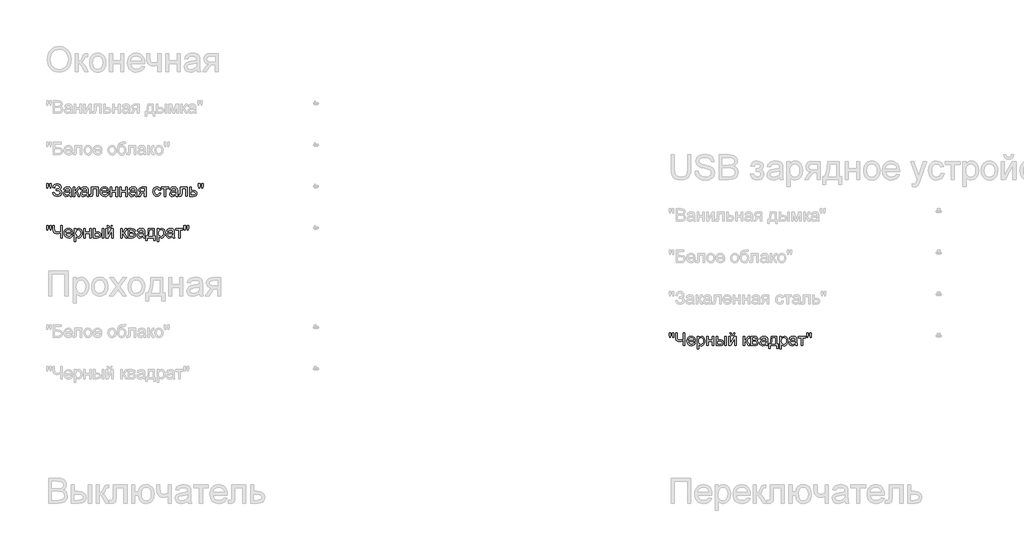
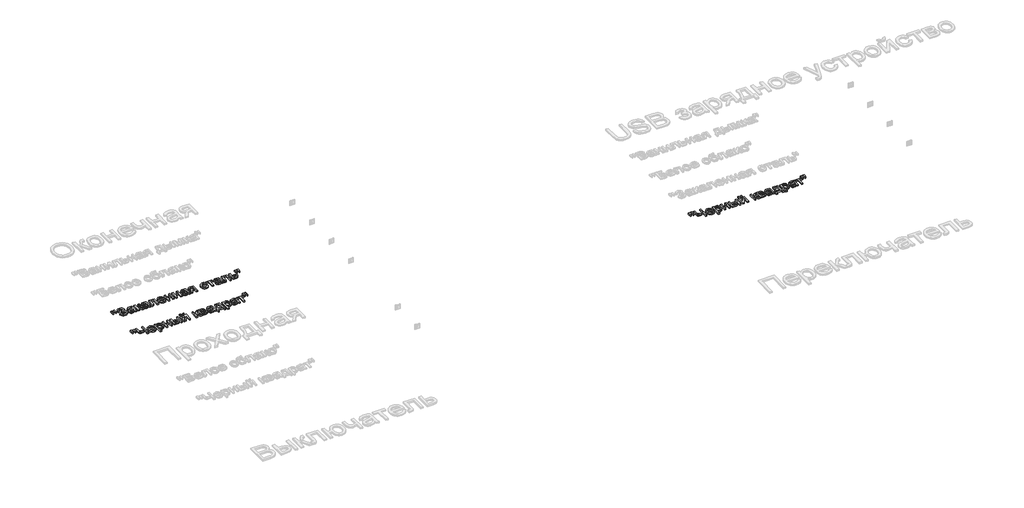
# One storey, part 139 of 168: 3 proxies.
"""IFC4 building model written with IfcOpenShell, lengths in millimetres."""

from ifc_helpers import new_model, si_unit, origin, origin_with_axes, place, context, project, spatial, polyline, outline, extrude, element, save

model = new_model("IFC4")

# Units and contexts
model_context = context("Model", 3, world=origin())
ifc_project = project(units=[si_unit("LENGTHUNIT", "METRE", prefix="MILLI")], contexts=[model_context])

# Site, building, storey
site = spatial("IfcSite", under=ifc_project)
building = spatial("IfcBuilding", under=site)
storey = spatial("IfcBuildingStorey", under=building, Name="Этаж 01", Elevation=0.0)

# Proxies
placement = place(None, origin())
element("IfcBuildingElementProxy", 1, Name="150", ObjectType="150", at=placement, inside=storey, context=model_context, shape_type="SweptSolid", body=[
    extrude(outline(polyline([(63580.1485789, -16051.873446), (63575.550054, -16022.7739802), (63575.550054, -15997.7212163), (63594.3856121, -15997.7212163), (63594.3856121, -16022.7739802), (63590.2653338, -16051.873446), (63580.1485789, -16051.873446)])), origin_with_axes(), (0.0, 0.0, 1.0), 20.0),
    extrude(outline(polyline([(63617.7093306, -16051.873446), (63613.2211703, -16022.7739802), (63613.2211703, -15997.7212163), (63632.0567284, -15997.7212163), (63632.0567284, -16022.7739802), (63627.6421445, -16051.873446), (63617.7093306, -16051.873446)])), origin_with_axes(), (0.0, 0.0, 1.0), 20.0),
    extrude(outline(polyline([(63650.8922866, -16106.0256757), (63669.7278447, -16101.3167862), (63681.2977335, -16121.7158428), (63692.2284273, -16129.3723868), (63706.2217387, -16131.9245682), (63720.398991, -16130.0069833), (63731.2193202, -16124.2542286), (63738.0757209, -16115.7883442), (63740.3611878, -16105.7313701), (63737.8641888, -16095.1961495), (63730.3731916, -16087.0613589), (63718.5779752, -16081.8604272), (63703.1683181, -16080.1267833), (63693.2722924, -16080.1267833), (63693.2722924, -16061.2912251), (63714.591054, -16059.7645148), (63727.6324708, -16051.9654165), (63733.2978535, -16037.7099892), (63731.4124583, -16028.8394346), (63725.7562726, -16021.2104817), (63716.8811195, -16015.9543677), (63705.3388219, -16014.2023297), (63686.1169876, -16019.591801), (63675.117316, -16033.8840165), (63672.0822895, -16047.1645565), (63653.2467313, -16042.455667), (63659.0983543, -16021.8542752), (63669.7002536, -16007.1389954), (63685.0524291, -15998.3098275), (63705.1548809, -15995.3667716), (63724.5468605, -15998.4247907), (63739.4598769, -16007.5988479), (63748.965028, -16020.8655924), (63752.1334117, -16036.201673), (63747.2037929, -16054.8440931), (63732.4149367, -16068.7592296), (63742.8903765, -16073.5830823), (63751.5080123, -16081.7270699), (63757.2745625, -16092.4922168), (63759.196746, -16105.1795471), (63755.508729, -16123.0172254), (63744.444678, -16137.6819214), (63727.2921799, -16147.4905751), (63705.3388219, -16150.7601263), (63686.2365493, -16147.9642232), (63670.7947025, -16139.5765137), (63659.0132816, -16125.5969979), (63650.8922866, -16106.0256757)])), origin_with_axes(), (0.0, 0.0, 1.0), 20.0),
    extrude(outline(polyline([(63853.3745367, -16134.279013), (63835.1091957, -16147.0445182), (63814.9308682, -16150.7601263), (63799.1901174, -16148.5252432), (63787.5788419, -16141.8205939), (63780.4189386, -16131.6394596), (63778.0323041, -16118.975122), (63781.6375477, -16104.0759012), (63791.110509, -16093.2601705), (63804.2990786, -16087.079753), (63820.596251, -16084.2470616), (63853.2641721, -16077.7723385), (63853.3745367, -16073.5784838), (63852.0777527, -16065.1723802), (63848.1874006, -16059.6725443), (63839.4869914, -16055.5890542), (63827.3652797, -16054.2278908), (63808.3089923, -16057.8515285), (63799.222307, -16070.7090042), (63780.3867489, -16068.3545594), (63788.5353351, -16049.9604597), (63804.9428721, -16039.1815172), (63829.7933008, -16035.3923327), (63852.6203786, -16038.7400588), (63865.5146426, -16047.1461624), (63871.2903899, -16059.9300617), (63872.2100949, -16076.4111751), (63872.2100949, -16099.8452582), (63873.1665881, -16132.5683617), (63876.9189844, -16148.4056816), (63858.0834263, -16148.4056816), (63853.3745367, -16134.279013)]), holes=[polyline([(63853.3745367, -16096.6078966), (63822.9874839, -16102.383644), (63806.782282, -16105.4370645), (63799.4430362, -16110.4034715), (63796.8678623, -16117.6507468), (63802.4780627, -16127.841078), (63818.940782, -16131.9245682), (63837.9970693, -16127.4180137), (63850.284328, -16116.5103126), (63853.2641721, -16101.9421856), (63853.3745367, -16096.6078966)])]), origin_with_axes(), (0.0, 0.0, 1.0), 20.0),
    extrude(outline(polyline([(63898.1089873, -16037.7467774), (63916.9445455, -16037.7467774), (63916.9445455, -16084.8356728), (63929.5628979, -16081.4511584), (63939.900382, -16061.7326835), (63948.4904266, -16044.7181412), (63956.0687957, -16039.1815172), (63969.8459764, -16037.7467774), (63973.4512199, -16037.7467774), (63973.4512199, -16056.6927002), (63968.3744484, -16056.5823356), (63959.1773985, -16058.5688983), (63952.7026754, -16070.9665216), (63945.1059122, -16084.3758203), (63934.4557285, -16090.9425139), (63946.3383169, -16098.2725627), (63958.0001762, -16113.7144094), (63978.1601095, -16148.4056816), (63956.7493774, -16148.4056816), (63936.9941142, -16114.4501734), (63927.0613004, -16100.0843815), (63916.9445455, -16096.6078966), (63916.9445455, -16148.4056816), (63898.1089873, -16148.4056816), (63898.1089873, -16037.7467774)])), origin_with_axes(), (0.0, 0.0, 1.0), 20.0),
    extrude(outline(polyline([(64060.5656764, -16134.279013), (64042.3003353, -16147.0445182), (64022.1220079, -16150.7601263), (64006.381257, -16148.5252432), (63994.7699816, -16141.8205939), (63987.6100782, -16131.6394596), (63985.2234438, -16118.975122), (63988.8286873, -16104.0759012), (63998.3016487, -16093.2601705), (64011.4902183, -16087.079753), (64027.7873906, -16084.2470616), (64060.4553118, -16077.7723385), (64060.5656764, -16073.5784838), (64059.2688924, -16065.1723802), (64055.3785403, -16059.6725443), (64046.6781311, -16055.5890542), (64034.5564193, -16054.2278908), (64015.500132, -16057.8515285), (64006.4134467, -16070.7090042), (63987.5778886, -16068.3545594), (63995.7264748, -16049.9604597), (64012.1340117, -16039.1815172), (64036.9844405, -16035.3923327), (64059.8115183, -16038.7400588), (64072.7057822, -16047.1461624), (64078.4815296, -16059.9300617), (64079.4012346, -16076.4111751), (64079.4012346, -16099.8452582), (64080.3577277, -16132.5683617), (64084.1101241, -16148.4056816), (64065.2745659, -16148.4056816), (64060.5656764, -16134.279013)]), holes=[polyline([(64060.5656764, -16096.6078966), (64030.1786236, -16102.383644), (64013.9734217, -16105.4370645), (64006.6341759, -16110.4034715), (64004.0590019, -16117.6507468), (64009.6692024, -16127.841078), (64026.1319217, -16131.9245682), (64045.188209, -16127.4180137), (64057.4754676, -16116.5103126), (64060.4553118, -16101.9421856), (64060.5656764, -16096.6078966)])]), origin_with_axes(), (0.0, 0.0, 1.0), 20.0),
    extrude(outline(polyline([(64114.7179061, -16037.7467774), (64199.4779178, -16037.7467774), (64199.4779178, -16148.295317), (64180.6423596, -16148.295317), (64180.6423596, -16056.5823356), (64133.5534643, -16056.5823356), (64133.5534643, -16109.3734019), (64132.2842714, -16133.72719), (64125.3129076, -16144.0094917), (64108.8317942, -16148.4056816), (64093.5279032, -16147.4491884), (64093.5279032, -16129.5701234), (64101.9524009, -16129.5701234), (64110.4688691, -16128.4112951), (64113.8717775, -16124.7324752), (64114.7179061, -16108.3065441), (64114.7179061, -16037.7467774)])), origin_with_axes(), (0.0, 0.0, 1.0), 20.0),
    extrude(outline(polyline([(64305.2072032, -16115.4434548), (64323.6748794, -16117.7978996), (64317.0208138, -16131.713036), (64306.4028197, -16142.1148995), (64292.0600204, -16148.5988196), (64274.2315392, -16150.7601263), (64252.1310283, -16147.0307226), (64235.1256831, -16135.8425114), (64224.2823613, -16117.9220597), (64220.6679207, -16093.9959345), (64224.3191495, -16069.2650674), (64235.2728359, -16050.7698), (64252.0482549, -16039.2366995), (64273.1646814, -16035.3923327), (64293.6235189, -16039.2275025), (64309.971275, -16050.7330118), (64320.6904367, -16069.191491), (64324.2634906, -16093.8855699), (64324.153126, -16098.9623414), (64239.5034789, -16098.9623414), (64242.763833, -16113.0614189), (64250.3376036, -16123.4264941), (64261.2682974, -16129.8000497), (64274.5994212, -16131.9245682), (64293.0670974, -16127.9882308), (64305.2072032, -16115.4434548)]), holes=[polyline([(64239.5034789, -16080.1267833), (64305.4279324, -16080.1267833), (64302.8803496, -16070.1755753), (64297.8863515, -16063.0570587), (64286.9050739, -16056.4351828), (64273.091105, -16054.2278908), (64260.3945777, -16055.9891259), (64249.8961452, -16061.272831), (64242.5982861, -16069.5087892), (64239.5034789, -16080.1267833)])]), origin_with_axes(), (0.0, 0.0, 1.0), 20.0),
    extrude(outline(polyline([(64343.0990487, -16037.7467774), (64361.9346069, -16037.7467774), (64361.9346069, -16080.1267833), (64411.377947, -16080.1267833), (64411.377947, -16037.7467774), (64430.2135052, -16037.7467774), (64430.2135052, -16148.4056816), (64411.377947, -16148.4056816), (64411.377947, -16098.9623414), (64361.9346069, -16098.9623414), (64361.9346069, -16148.4056816), (64343.0990487, -16148.4056816), (64343.0990487, -16037.7467774)])), origin_with_axes(), (0.0, 0.0, 1.0), 20.0),
    extrude(outline(polyline([(64458.4668424, -16037.7467774), (64477.3024005, -16037.7467774), (64477.3024005, -16080.1267833), (64526.7457407, -16080.1267833), (64526.7457407, -16037.7467774), (64545.5812988, -16037.7467774), (64545.5812988, -16148.4056816), (64526.7457407, -16148.4056816), (64526.7457407, -16098.9623414), (64477.3024005, -16098.9623414), (64477.3024005, -16148.4056816), (64458.4668424, -16148.4056816), (64458.4668424, -16037.7467774)])), origin_with_axes(), (0.0, 0.0, 1.0), 20.0),
    extrude(outline(polyline([(64644.4679792, -16134.279013), (64626.2026381, -16147.0445182), (64606.0243107, -16150.7601263), (64590.2835598, -16148.5252432), (64578.6722843, -16141.8205939), (64571.512381, -16131.6394596), (64569.1257465, -16118.975122), (64572.7309901, -16104.0759012), (64582.2039515, -16093.2601705), (64595.392521, -16087.079753), (64611.6896934, -16084.2470616), (64644.3576146, -16077.7723385), (64644.4679792, -16073.5784838), (64643.1711951, -16065.1723802), (64639.280843, -16059.6725443), (64630.5804338, -16055.5890542), (64618.4587221, -16054.2278908), (64599.4024347, -16057.8515285), (64590.3157495, -16070.7090042), (64571.4801913, -16068.3545594), (64579.6287775, -16049.9604597), (64596.0363145, -16039.1815172), (64620.8867433, -16035.3923327), (64643.7138211, -16038.7400588), (64656.608085, -16047.1461624), (64662.3838323, -16059.9300617), (64663.3035373, -16076.4111751), (64663.3035373, -16099.8452582), (64664.2600305, -16132.5683617), (64668.0124268, -16148.4056816), (64649.1768687, -16148.4056816), (64644.4679792, -16134.279013)]), holes=[polyline([(64644.4679792, -16096.6078966), (64614.0809264, -16102.383644), (64597.8757245, -16105.4370645), (64590.5364787, -16110.4034715), (64587.9613047, -16117.6507468), (64593.5715051, -16127.841078), (64610.0342244, -16131.9245682), (64629.0905118, -16127.4180137), (64641.3777704, -16116.5103126), (64644.3576146, -16101.9421856), (64644.4679792, -16096.6078966)])]), origin_with_axes(), (0.0, 0.0, 1.0), 20.0),
    extrude(outline(polyline([(64773.9624415, -16037.7467774), (64773.9624415, -16148.4056816), (64755.1268833, -16148.4056816), (64755.1268833, -16106.0256757), (64744.8629756, -16106.0256757), (64730.8834598, -16108.4169087), (64717.7500726, -16124.4933519), (64702.7404872, -16148.4056816), (64680.9618731, -16148.4056816), (64699.8710076, -16118.1657816), (64708.2219289, -16107.3132627), (64715.9106626, -16102.4940086), (64703.0347928, -16098.5484742), (64693.9848957, -16091.0528785), (64688.6322127, -16081.0832765), (64686.847985, -16069.7157228), (64689.2852032, -16056.8214589), (64696.5968579, -16046.6127335), (64708.5254316, -16039.9632664), (64724.8134069, -16037.7467774), (64773.9624415, -16037.7467774)]), holes=[polyline([(64755.1268833, -16056.5823356), (64730.2948486, -16056.5823356), (64717.4695626, -16057.672186), (64710.1900976, -16060.9417372), (64705.6835431, -16071.1504626), (64707.3436107, -16078.32876), (64712.3238132, -16083.3089625), (64735.8498668, -16087.1901176), (64755.1268833, -16087.1901176), (64755.1268833, -16056.5823356)])]), origin_with_axes(), (0.0, 0.0, 1.0), 20.0),
    extrude(outline(polyline([(64931.710241, -16108.3801205), (64950.5457991, -16110.7345653), (64945.2942837, -16127.4869916), (64935.4258491, -16140.1467308), (64921.8693976, -16148.1067774), (64905.5538311, -16150.7601263), (64885.518058, -16147.0583138), (64869.8508835, -16135.952876), (64859.7387272, -16117.9312568), (64856.3680084, -16093.4808997), (64857.8073467, -16076.7192763), (64862.1253616, -16062.192536), (64869.391031, -16050.4616989), (64879.6733328, -16042.087785), (64891.974387, -16037.0661957), (64905.2963137, -16035.3923327), (64921.2118085, -16037.6915951), (64933.9359271, -16044.5893825), (64943.0639991, -16055.7178129), (64948.1913544, -16070.7090042), (64929.3557962, -16073.063449), (64920.6185988, -16058.9551744), (64905.4434665, -16054.2278908), (64893.271171, -16056.5547444), (64883.6096701, -16063.5353053), (64877.3050924, -16075.5466524), (64875.2035665, -16092.9658649), (64877.2591072, -16110.6196021), (64883.4257291, -16122.672336), (64892.9124861, -16129.6115101), (64904.9284317, -16131.9245682), (64914.6819031, -16130.4806314), (64922.678738, -16126.1488209), (64928.4958721, -16118.8187721), (64931.710241, -16108.3801205)])), origin_with_axes(), (0.0, 0.0, 1.0), 20.0),
    extrude(outline(polyline([(64957.6091334, -16037.7467774), (65047.0780347, -16037.7467774), (65047.0780347, -16056.5823356), (65011.7613631, -16056.5823356), (65011.7613631, -16148.4056816), (64992.925805, -16148.4056816), (64992.925805, -16056.5823356), (64957.6091334, -16056.5823356), (64957.6091334, -16037.7467774)])), origin_with_axes(), (0.0, 0.0, 1.0), 20.0),
    extrude(outline(polyline([(65134.1924911, -16134.279013), (65115.9271501, -16147.0445182), (65095.7488226, -16150.7601263), (65080.0080718, -16148.5252432), (65068.3967963, -16141.8205939), (65061.236893, -16131.6394596), (65058.8502585, -16118.975122), (65062.4555021, -16104.0759012), (65071.9284634, -16093.2601705), (65085.117033, -16087.079753), (65101.4142054, -16084.2470616), (65134.0821265, -16077.7723385), (65134.1924911, -16073.5784838), (65132.8957071, -16065.1723802), (65129.005355, -16059.6725443), (65120.3049458, -16055.5890542), (65108.1832341, -16054.2278908), (65089.1269467, -16057.8515285), (65080.0402614, -16070.7090042), (65061.2047033, -16068.3545594), (65069.3532895, -16049.9604597), (65085.7608265, -16039.1815172), (65110.6112552, -16035.3923327), (65133.438333, -16038.7400588), (65146.332597, -16047.1461624), (65152.1083443, -16059.9300617), (65153.0280493, -16076.4111751), (65153.0280493, -16099.8452582), (65153.9845425, -16132.5683617), (65157.7369388, -16148.4056816), (65138.9013807, -16148.4056816), (65134.1924911, -16134.279013)]), holes=[polyline([(65134.1924911, -16096.6078966), (65103.8054383, -16102.383644), (65087.6002364, -16105.4370645), (65080.2609906, -16110.4034715), (65077.6858167, -16117.6507468), (65083.2960171, -16127.841078), (65099.7587364, -16131.9245682), (65118.8150237, -16127.4180137), (65131.1022824, -16116.5103126), (65134.0821265, -16101.9421856), (65134.1924911, -16096.6078966)])]), origin_with_axes(), (0.0, 0.0, 1.0), 20.0),
    extrude(outline(polyline([(65188.3447208, -16037.7467774), (65273.1047325, -16037.7467774), (65273.1047325, -16148.295317), (65254.2691744, -16148.295317), (65254.2691744, -16056.5823356), (65207.180279, -16056.5823356), (65207.180279, -16109.3734019), (65205.9110861, -16133.72719), (65198.9397223, -16144.0094917), (65182.4586089, -16148.4056816), (65167.1547179, -16147.4491884), (65167.1547179, -16129.5701234), (65175.5792156, -16129.5701234), (65184.0956838, -16128.4112951), (65187.4985922, -16124.7324752), (65188.3447208, -16108.3065441), (65188.3447208, -16037.7467774)])), origin_with_axes(), (0.0, 0.0, 1.0), 20.0),
    extrude(outline(polyline([(65301.3580697, -16037.7467774), (65320.1936279, -16037.7467774), (65320.1936279, -16077.7723385), (65341.8986656, -16077.7723385), (65360.7158297, -16080.1313818), (65374.6401632, -16087.2085117), (65383.2486019, -16098.433511), (65386.1180814, -16113.2361628), (65383.6762647, -16126.7144394), (65376.3508145, -16138.0865916), (65363.6542871, -16145.8259091), (65345.099239, -16148.4056816), (65301.3580697, -16148.4056816), (65301.3580697, -16037.7467774)]), holes=[polyline([(65320.1936279, -16129.5701234), (65337.7783873, -16129.5701234), (65360.4951005, -16125.615392), (65365.5856676, -16120.552416), (65367.2825233, -16113.272951), (65362.260934, -16101.6846682), (65354.1905228, -16097.8770895), (65340.0224674, -16096.6078966), (65320.1936279, -16096.6078966), (65320.1936279, -16129.5701234)])]), origin_with_axes(), (0.0, 0.0, 1.0), 20.0),
    extrude(outline(polyline([(65409.5521645, -16051.873446), (65404.9536396, -16022.7739802), (65404.9536396, -15997.7212163), (65423.7891977, -15997.7212163), (65423.7891977, -16022.7739802), (65419.6689194, -16051.873446), (65409.5521645, -16051.873446)])), origin_with_axes(), (0.0, 0.0, 1.0), 20.0),
    extrude(outline(polyline([(65447.1129162, -16051.873446), (65442.6247559, -16022.7739802), (65442.6247559, -15997.7212163), (65461.460314, -15997.7212163), (65461.460314, -16022.7739802), (65457.0457301, -16051.873446), (65447.1129162, -16051.873446)])), origin_with_axes(), (0.0, 0.0, 1.0), 20.0),
])
element("IfcBuildingElementProxy", 2, Name="150", ObjectType="150", at=placement, inside=storey, context=model_context, shape_type="SweptSolid", body=[
    extrude(outline(polyline([(63580.1485789, -16551.873446), (63575.550054, -16522.7739802), (63575.550054, -16497.7212163), (63594.3856121, -16497.7212163), (63594.3856121, -16522.7739802), (63590.2653338, -16551.873446), (63580.1485789, -16551.873446)])), origin_with_axes(), (0.0, 0.0, 1.0), 20.0),
    extrude(outline(polyline([(63617.7093306, -16551.873446), (63613.2211703, -16522.7739802), (63613.2211703, -16497.7212163), (63632.0567284, -16497.7212163), (63632.0567284, -16522.7739802), (63627.6421445, -16551.873446), (63617.7093306, -16551.873446)])), origin_with_axes(), (0.0, 0.0, 1.0), 20.0),
    extrude(outline(polyline([(63763.9056355, -16648.4056816), (63745.0700773, -16648.4056816), (63745.0700773, -16588.0730344), (63720.0908899, -16596.2400147), (63698.4226404, -16598.9623414), (63683.7395502, -16597.0999388), (63670.886673, -16591.512731), (63660.926268, -16583.0606422), (63654.9205944, -16572.6035965), (63650.8922866, -16542.6028198), (63650.8922866, -16497.7212163), (63669.7278447, -16497.7212163), (63669.7278447, -16540.064434), (63671.990319, -16560.4313009), (63678.7777418, -16572.3828673), (63688.7381468, -16578.1908043), (63700.5195677, -16580.1267833), (63722.2521966, -16577.7907326), (63745.0700773, -16570.7825806), (63745.0700773, -16497.7212163), (63763.9056355, -16497.7212163), (63763.9056355, -16648.4056816)])), origin_with_axes(), (0.0, 0.0, 1.0), 20.0),
    extrude(outline(polyline([(63871.9893657, -16615.4434548), (63890.4570418, -16617.7978996), (63883.8029763, -16631.713036), (63873.1849822, -16642.1148995), (63858.8421829, -16648.5988196), (63841.0137017, -16650.7601263), (63818.9131908, -16647.0307226), (63801.9078456, -16635.8425114), (63791.0645238, -16617.9220597), (63787.4500832, -16593.9959345), (63791.101312, -16569.2650674), (63802.0549984, -16550.7698), (63818.8304174, -16539.2366995), (63839.9468439, -16535.3923327), (63860.4056814, -16539.2275025), (63876.7534375, -16550.7330118), (63887.4725992, -16569.191491), (63891.045653, -16593.8855699), (63890.9352884, -16598.9623414), (63806.2856413, -16598.9623414), (63809.5459955, -16613.0614189), (63817.1197661, -16623.4264941), (63828.0504599, -16629.8000497), (63841.3815837, -16631.9245682), (63859.8492598, -16627.9882308), (63871.9893657, -16615.4434548)]), holes=[polyline([(63806.2856413, -16580.1267833), (63872.2100949, -16580.1267833), (63869.6625121, -16570.1755753), (63864.668514, -16563.0570587), (63853.6872364, -16556.4351828), (63839.8732675, -16554.2278908), (63827.1767401, -16555.9891259), (63816.6783077, -16561.272831), (63809.3804486, -16569.5087892), (63806.2856413, -16580.1267833)])]), origin_with_axes(), (0.0, 0.0, 1.0), 20.0),
    extrude(outline(polyline([(63909.8812112, -16690.7856874), (63909.8812112, -16537.7467774), (63928.7167693, -16537.7467774), (63928.7167693, -16556.2144536), (63941.739792, -16540.5978629), (63959.3245513, -16535.3923327), (63972.0624654, -16537.2133485), (63983.2000928, -16542.6763962), (63992.268384, -16551.4503817), (63998.7982894, -16563.2042115), (64004.0590019, -16592.2301009), (64002.5736784, -16608.3387338), (63998.1177077, -16622.7459124), (63990.8336442, -16634.7204713), (63980.8640422, -16643.5312451), (63969.2527667, -16648.952906), (63957.043683, -16650.7601263), (63940.6545401, -16645.9224781), (63928.7167693, -16633.6904018), (63928.7167693, -16690.7856874), (63909.8812112, -16690.7856874)]), holes=[polyline([(63928.7167693, -16593.9591463), (63930.7539159, -16610.8449299), (63936.8653555, -16622.6539419), (63945.8830629, -16629.6069116), (63956.6390128, -16631.9245682), (63967.5697066, -16629.5241382), (63976.8173402, -16622.3228481), (63983.1219179, -16610.0815747), (63985.2234438, -16592.5611947), (63983.1725017, -16575.7673816), (63977.0196753, -16563.7928227), (63968.0157635, -16556.6191238), (63957.411565, -16554.2278908), (63946.7659797, -16556.7708751), (63937.4171785, -16564.399828), (63930.8918716, -16576.8756261), (63928.7167693, -16593.9591463)])]), origin_with_axes(), (0.0, 0.0, 1.0), 20.0),
    extrude(outline(polyline([(64025.2490049, -16537.7467774), (64044.084563, -16537.7467774), (64044.084563, -16580.1267833), (64093.5279032, -16580.1267833), (64093.5279032, -16537.7467774), (64112.3634613, -16537.7467774), (64112.3634613, -16648.4056816), (64093.5279032, -16648.4056816), (64093.5279032, -16598.9623414), (64044.084563, -16598.9623414), (64044.084563, -16648.4056816), (64025.2490049, -16648.4056816), (64025.2490049, -16537.7467774)])), origin_with_axes(), (0.0, 0.0, 1.0), 20.0),
    extrude(outline(polyline([(64244.2123684, -16537.7467774), (64263.0479266, -16537.7467774), (64263.0479266, -16648.4056816), (64244.2123684, -16648.4056816), (64244.2123684, -16537.7467774)])), origin_with_axes(), (0.0, 0.0, 1.0), 20.0),
    extrude(outline(polyline([(64140.6167986, -16537.7467774), (64159.4523567, -16537.7467774), (64159.4523567, -16577.7723385), (64182.739287, -16577.7723385), (64202.8670307, -16580.1313818), (64217.780047, -16587.2085117), (64227.0092866, -16598.433511), (64230.0856998, -16613.2361628), (64227.5059273, -16626.7144394), (64219.7666098, -16638.0865916), (64206.3619096, -16645.8259091), (64186.785989, -16648.4056816), (64140.6167986, -16648.4056816), (64140.6167986, -16537.7467774)]), holes=[polyline([(64159.4523567, -16629.5701234), (64178.8029497, -16629.5701234), (64203.7821371, -16625.615392), (64209.3831405, -16620.552416), (64211.2501416, -16613.272951), (64205.7135176, -16601.6846682), (64196.8337659, -16597.8770895), (64181.267759, -16596.6078966), (64159.4523567, -16596.6078966), (64159.4523567, -16629.5701234)])]), origin_with_axes(), (0.0, 0.0, 1.0), 20.0),
    extrude(outline(polyline([(64291.3012638, -16537.7467774), (64310.1368219, -16537.7467774), (64310.1368219, -16622.1389071), (64356.4163769, -16537.7467774), (64380.770165, -16537.7467774), (64380.770165, -16648.4056816), (64361.9346069, -16648.4056816), (64361.9346069, -16564.5285867), (64315.9493575, -16648.4056816), (64291.3012638, -16648.4056816), (64291.3012638, -16537.7467774)])), origin_with_axes(), (0.0, 0.0, 1.0), 20.0),
    extrude(outline(polyline([(64352.5168278, -16497.7212163), (64366.6434964, -16497.7212163), (64363.6038714, -16509.7831473), (64357.5016288, -16518.672096), (64348.6126801, -16524.1489392), (64337.2129368, -16525.9745536), (64324.8429047, -16524.1627347), (64315.2503817, -16518.7272783), (64308.6928851, -16509.8521251), (64305.4279324, -16497.7212163), (64319.554601, -16497.7212163), (64324.8521017, -16508.3346119), (64335.5206796, -16511.847885), (64347.219327, -16508.4449765), (64352.5168278, -16497.7212163)])), origin_with_axes(), (0.0, 0.0, 1.0), 20.0),
    extrude(outline(polyline([(64467.8846215, -16537.7467774), (64486.7201796, -16537.7467774), (64486.7201796, -16584.8356728), (64499.3385321, -16581.4511584), (64509.6760161, -16561.7326835), (64518.2660607, -16544.7181412), (64525.8444298, -16539.1815172), (64539.6216105, -16537.7467774), (64543.2268541, -16537.7467774), (64543.2268541, -16556.6927002), (64538.1500825, -16556.5823356), (64528.9530327, -16558.5688983), (64522.4783096, -16570.9665216), (64514.8815464, -16584.3758203), (64504.2313626, -16590.9425139), (64516.113951, -16598.2725627), (64527.7758103, -16613.7144094), (64547.9357436, -16648.4056816), (64526.5250115, -16648.4056816), (64506.7697484, -16614.4501734), (64496.8369345, -16600.0843815), (64486.7201796, -16596.6078966), (64486.7201796, -16648.4056816), (64467.8846215, -16648.4056816), (64467.8846215, -16537.7467774)])), origin_with_axes(), (0.0, 0.0, 1.0), 20.0),
    extrude(outline(polyline([(64559.7079675, -16537.7467774), (64601.2050565, -16537.7467774), (64623.9585579, -16540.2667691), (64636.7608514, -16549.5006072), (64642.1135344, -16565.5954445), (64638.8761728, -16578.6736494), (64629.1273, -16587.999458), (64641.7824406, -16598.2081833), (64646.8224239, -16615.9584896), (64643.6310476, -16630.3150845), (64636.0434815, -16640.4226423), (64624.0321343, -16646.4099217), (64607.569415, -16648.4056816), (64559.7079675, -16648.4056816), (64559.7079675, -16537.7467774)]), holes=[polyline([(64578.5435256, -16580.1267833), (64597.1583546, -16580.1267833), (64612.5174279, -16579.1702901), (64619.9854324, -16575.3443173), (64623.2779762, -16568.4281358), (64621.8340394, -16562.8087383), (64617.5022289, -16559.1942977), (64597.7469658, -16556.5823356), (64578.5435256, -16556.5823356), (64578.5435256, -16580.1267833)]), polyline([(64578.5435256, -16629.5701234), (64601.6465149, -16629.5701234), (64622.137542, -16626.167215), (64626.377382, -16621.5273033), (64627.9868658, -16614.4133852), (64624.7678983, -16605.345094), (64616.3801888, -16600.0659874), (64599.8071049, -16598.9623414), (64578.5435256, -16598.9623414), (64578.5435256, -16629.5701234)])]), origin_with_axes(), (0.0, 0.0, 1.0), 20.0),
    extrude(outline(polyline([(64741.0002147, -16634.279013), (64722.7348736, -16647.0445182), (64702.5565462, -16650.7601263), (64686.8157953, -16648.5252432), (64675.2045198, -16641.8205939), (64668.0446165, -16631.6394596), (64665.6579821, -16618.975122), (64669.2632256, -16604.0759012), (64678.736187, -16593.2601705), (64691.9247565, -16587.079753), (64708.2219289, -16584.2470616), (64740.8898501, -16577.7723385), (64741.0002147, -16573.5784838), (64739.7034307, -16565.1723802), (64735.8130786, -16559.6725443), (64727.1126694, -16555.5890542), (64714.9909576, -16554.2278908), (64695.9346703, -16557.8515285), (64686.847985, -16570.7090042), (64668.0124268, -16568.3545594), (64676.161013, -16549.9604597), (64692.56855, -16539.1815172), (64717.4189788, -16535.3923327), (64740.2460566, -16538.7400588), (64753.1403205, -16547.1461624), (64758.9160679, -16559.9300617), (64759.8357728, -16576.4111751), (64759.8357728, -16599.8452582), (64760.792266, -16632.5683617), (64764.5446624, -16648.4056816), (64745.7091042, -16648.4056816), (64741.0002147, -16634.279013)]), holes=[polyline([(64741.0002147, -16596.6078966), (64710.6131619, -16602.383644), (64694.40796, -16605.4370645), (64687.0687142, -16610.4034715), (64684.4935402, -16617.6507468), (64690.1037407, -16627.841078), (64706.5664599, -16631.9245682), (64725.6227473, -16627.4180137), (64737.9100059, -16616.5103126), (64740.8898501, -16601.9421856), (64741.0002147, -16596.6078966)])]), origin_with_axes(), (0.0, 0.0, 1.0), 20.0),
    extrude(outline(polyline([(64802.2157787, -16537.7467774), (64872.8491218, -16537.7467774), (64872.8491218, -16629.5701234), (64886.9757904, -16629.5701234), (64886.9757904, -16679.0134636), (64868.1402322, -16679.0134636), (64868.1402322, -16648.4056816), (64790.4435548, -16648.4056816), (64790.4435548, -16679.0134636), (64771.6079967, -16679.0134636), (64771.6079967, -16629.5701234), (64783.3802205, -16629.5701234), (64791.9380754, -16614.105284), (64797.9299534, -16593.6464466), (64802.2157787, -16537.7467774)]), holes=[polyline([(64818.6968921, -16556.5823356), (64814.2823081, -16599.4957703), (64804.5702235, -16629.5701234), (64854.0135636, -16629.5701234), (64854.0135636, -16556.5823356), (64818.6968921, -16556.5823356)])]), origin_with_axes(), (0.0, 0.0, 1.0), 20.0),
    extrude(outline(polyline([(64908.1657933, -16690.7856874), (64908.1657933, -16537.7467774), (64927.0013514, -16537.7467774), (64927.0013514, -16556.2144536), (64940.0243741, -16540.5978629), (64957.6091334, -16535.3923327), (64970.3470475, -16537.2133485), (64981.4846749, -16542.6763962), (64990.5529661, -16551.4503817), (64997.0828715, -16563.2042115), (65002.3435841, -16592.2301009), (65000.8582605, -16608.3387338), (64996.4022898, -16622.7459124), (64989.1182263, -16634.7204713), (64979.1486243, -16643.5312451), (64967.5373488, -16648.952906), (64955.3282651, -16650.7601263), (64938.9391222, -16645.9224781), (64927.0013514, -16633.6904018), (64927.0013514, -16690.7856874), (64908.1657933, -16690.7856874)]), holes=[polyline([(64927.0013514, -16593.9591463), (64929.038498, -16610.8449299), (64935.1499376, -16622.6539419), (64944.167645, -16629.6069116), (64954.9235949, -16631.9245682), (64965.8542887, -16629.5241382), (64975.1019223, -16622.3228481), (64981.4065, -16610.0815747), (64983.5080259, -16592.5611947), (64981.4570838, -16575.7673816), (64975.3042574, -16563.7928227), (64966.3003456, -16556.6191238), (64955.6961471, -16554.2278908), (64945.0505618, -16556.7708751), (64935.7017606, -16564.399828), (64929.1764537, -16576.8756261), (64927.0013514, -16593.9591463)])]), origin_with_axes(), (0.0, 0.0, 1.0), 20.0),
    extrude(outline(polyline([(65094.1669301, -16634.279013), (65075.901589, -16647.0445182), (65055.7232616, -16650.7601263), (65039.9825107, -16648.5252432), (65028.3712352, -16641.8205939), (65021.2113319, -16631.6394596), (65018.8246974, -16618.975122), (65022.429941, -16604.0759012), (65031.9029024, -16593.2601705), (65045.0914719, -16587.079753), (65061.3886443, -16584.2470616), (65094.0565655, -16577.7723385), (65094.1669301, -16573.5784838), (65092.870146, -16565.1723802), (65088.9797939, -16559.6725443), (65080.2793847, -16555.5890542), (65068.157673, -16554.2278908), (65049.1013856, -16557.8515285), (65040.0147004, -16570.7090042), (65021.1791422, -16568.3545594), (65029.3277284, -16549.9604597), (65045.7352654, -16539.1815172), (65070.5856942, -16535.3923327), (65093.412772, -16538.7400588), (65106.3070359, -16547.1461624), (65112.0827832, -16559.9300617), (65113.0024882, -16576.4111751), (65113.0024882, -16599.8452582), (65113.9589814, -16632.5683617), (65117.7113777, -16648.4056816), (65098.8758196, -16648.4056816), (65094.1669301, -16634.279013)]), holes=[polyline([(65094.1669301, -16596.6078966), (65063.7798773, -16602.383644), (65047.5746754, -16605.4370645), (65040.2354296, -16610.4034715), (65037.6602556, -16617.6507468), (65043.270456, -16627.841078), (65059.7331753, -16631.9245682), (65078.7894627, -16627.4180137), (65091.0767213, -16616.5103126), (65094.0565655, -16601.9421856), (65094.1669301, -16596.6078966)])]), origin_with_axes(), (0.0, 0.0, 1.0), 20.0),
    extrude(outline(polyline([(65129.4836016, -16537.7467774), (65218.9525028, -16537.7467774), (65218.9525028, -16556.5823356), (65183.6358313, -16556.5823356), (65183.6358313, -16648.4056816), (65164.8002731, -16648.4056816), (65164.8002731, -16556.5823356), (65129.4836016, -16556.5823356), (65129.4836016, -16537.7467774)])), origin_with_axes(), (0.0, 0.0, 1.0), 20.0),
    extrude(outline(polyline([(65235.3232516, -16551.873446), (65230.7247267, -16522.7739802), (65230.7247267, -16497.7212163), (65249.5602848, -16497.7212163), (65249.5602848, -16522.7739802), (65245.4400065, -16551.873446), (65235.3232516, -16551.873446)])), origin_with_axes(), (0.0, 0.0, 1.0), 20.0),
    extrude(outline(polyline([(65272.8840033, -16551.873446), (65268.395843, -16522.7739802), (65268.395843, -16497.7212163), (65287.2314011, -16497.7212163), (65287.2314011, -16522.7739802), (65282.8168172, -16551.873446), (65272.8840033, -16551.873446)])), origin_with_axes(), (0.0, 0.0, 1.0), 20.0),
])
element("IfcBuildingElementProxy", 3, Name="150", ObjectType="150", at=placement, inside=storey, context=model_context, shape_type="SweptSolid", body=[
    extrude(outline(polyline([(71080.1485789, -17851.873446), (71075.550054, -17822.7739802), (71075.550054, -17797.7212163), (71094.3856121, -17797.7212163), (71094.3856121, -17822.7739802), (71090.2653338, -17851.873446), (71080.1485789, -17851.873446)])), origin_with_axes(), (0.0, 0.0, 1.0), 20.0),
    extrude(outline(polyline([(71117.7093306, -17851.873446), (71113.2211703, -17822.7739802), (71113.2211703, -17797.7212163), (71132.0567284, -17797.7212163), (71132.0567284, -17822.7739802), (71127.6421445, -17851.873446), (71117.7093306, -17851.873446)])), origin_with_axes(), (0.0, 0.0, 1.0), 20.0),
    extrude(outline(polyline([(71263.9056355, -17948.4056816), (71245.0700773, -17948.4056816), (71245.0700773, -17888.0730344), (71220.0908899, -17896.2400147), (71198.4226404, -17898.9623414), (71183.7395502, -17897.0999388), (71170.886673, -17891.512731), (71160.926268, -17883.0606422), (71154.9205944, -17872.6035965), (71150.8922866, -17842.6028198), (71150.8922866, -17797.7212163), (71169.7278447, -17797.7212163), (71169.7278447, -17840.064434), (71171.990319, -17860.4313009), (71178.7777418, -17872.3828673), (71188.7381468, -17878.1908043), (71200.5195677, -17880.1267833), (71222.2521966, -17877.7907326), (71245.0700773, -17870.7825806), (71245.0700773, -17797.7212163), (71263.9056355, -17797.7212163), (71263.9056355, -17948.4056816)])), origin_with_axes(), (0.0, 0.0, 1.0), 20.0),
    extrude(outline(polyline([(71371.9893657, -17915.4434548), (71390.4570418, -17917.7978996), (71383.8029763, -17931.713036), (71373.1849822, -17942.1148995), (71358.8421829, -17948.5988196), (71341.0137017, -17950.7601263), (71318.9131908, -17947.0307226), (71301.9078456, -17935.8425114), (71291.0645238, -17917.9220597), (71287.4500832, -17893.9959345), (71291.101312, -17869.2650674), (71302.0549984, -17850.7698), (71318.8304174, -17839.2366995), (71339.9468439, -17835.3923327), (71360.4056814, -17839.2275025), (71376.7534375, -17850.7330118), (71387.4725992, -17869.191491), (71391.045653, -17893.8855699), (71390.9352884, -17898.9623414), (71306.2856413, -17898.9623414), (71309.5459955, -17913.0614189), (71317.1197661, -17923.4264941), (71328.0504599, -17929.8000497), (71341.3815837, -17931.9245682), (71359.8492598, -17927.9882308), (71371.9893657, -17915.4434548)]), holes=[polyline([(71306.2856413, -17880.1267833), (71372.2100949, -17880.1267833), (71369.6625121, -17870.1755753), (71364.668514, -17863.0570587), (71353.6872364, -17856.4351828), (71339.8732675, -17854.2278908), (71327.1767401, -17855.9891259), (71316.6783077, -17861.272831), (71309.3804486, -17869.5087892), (71306.2856413, -17880.1267833)])]), origin_with_axes(), (0.0, 0.0, 1.0), 20.0),
    extrude(outline(polyline([(71409.8812112, -17990.7856874), (71409.8812112, -17837.7467774), (71428.7167693, -17837.7467774), (71428.7167693, -17856.2144536), (71441.739792, -17840.5978629), (71459.3245513, -17835.3923327), (71472.0624654, -17837.2133485), (71483.2000928, -17842.6763962), (71492.268384, -17851.4503817), (71498.7982894, -17863.2042115), (71504.0590019, -17892.2301009), (71502.5736784, -17908.3387338), (71498.1177077, -17922.7459124), (71490.8336442, -17934.7204713), (71480.8640422, -17943.5312451), (71469.2527667, -17948.952906), (71457.043683, -17950.7601263), (71440.6545401, -17945.9224781), (71428.7167693, -17933.6904018), (71428.7167693, -17990.7856874), (71409.8812112, -17990.7856874)]), holes=[polyline([(71428.7167693, -17893.9591463), (71430.7539159, -17910.8449299), (71436.8653555, -17922.6539419), (71445.8830629, -17929.6069116), (71456.6390128, -17931.9245682), (71467.5697066, -17929.5241382), (71476.8173402, -17922.3228481), (71483.1219179, -17910.0815747), (71485.2234438, -17892.5611947), (71483.1725017, -17875.7673816), (71477.0196753, -17863.7928227), (71468.0157635, -17856.6191238), (71457.411565, -17854.2278908), (71446.7659797, -17856.7708751), (71437.4171785, -17864.399828), (71430.8918716, -17876.8756261), (71428.7167693, -17893.9591463)])]), origin_with_axes(), (0.0, 0.0, 1.0), 20.0),
    extrude(outline(polyline([(71525.2490049, -17837.7467774), (71544.084563, -17837.7467774), (71544.084563, -17880.1267833), (71593.5279032, -17880.1267833), (71593.5279032, -17837.7467774), (71612.3634613, -17837.7467774), (71612.3634613, -17948.4056816), (71593.5279032, -17948.4056816), (71593.5279032, -17898.9623414), (71544.084563, -17898.9623414), (71544.084563, -17948.4056816), (71525.2490049, -17948.4056816), (71525.2490049, -17837.7467774)])), origin_with_axes(), (0.0, 0.0, 1.0), 20.0),
    extrude(outline(polyline([(71744.2123684, -17837.7467774), (71763.0479266, -17837.7467774), (71763.0479266, -17948.4056816), (71744.2123684, -17948.4056816), (71744.2123684, -17837.7467774)])), origin_with_axes(), (0.0, 0.0, 1.0), 20.0),
    extrude(outline(polyline([(71640.6167986, -17837.7467774), (71659.4523567, -17837.7467774), (71659.4523567, -17877.7723385), (71682.739287, -17877.7723385), (71702.8670307, -17880.1313818), (71717.780047, -17887.2085117), (71727.0092866, -17898.433511), (71730.0856998, -17913.2361628), (71727.5059273, -17926.7144394), (71719.7666098, -17938.0865916), (71706.3619096, -17945.8259091), (71686.785989, -17948.4056816), (71640.6167986, -17948.4056816), (71640.6167986, -17837.7467774)]), holes=[polyline([(71659.4523567, -17929.5701234), (71678.8029497, -17929.5701234), (71703.7821371, -17925.615392), (71709.3831405, -17920.552416), (71711.2501416, -17913.272951), (71705.7135176, -17901.6846682), (71696.8337659, -17897.8770895), (71681.267759, -17896.6078966), (71659.4523567, -17896.6078966), (71659.4523567, -17929.5701234)])]), origin_with_axes(), (0.0, 0.0, 1.0), 20.0),
    extrude(outline(polyline([(71791.3012638, -17837.7467774), (71810.1368219, -17837.7467774), (71810.1368219, -17922.1389071), (71856.4163769, -17837.7467774), (71880.770165, -17837.7467774), (71880.770165, -17948.4056816), (71861.9346069, -17948.4056816), (71861.9346069, -17864.5285867), (71815.9493575, -17948.4056816), (71791.3012638, -17948.4056816), (71791.3012638, -17837.7467774)])), origin_with_axes(), (0.0, 0.0, 1.0), 20.0),
    extrude(outline(polyline([(71852.5168278, -17797.7212163), (71866.6434964, -17797.7212163), (71863.6038714, -17809.7831473), (71857.5016288, -17818.672096), (71848.6126801, -17824.1489392), (71837.2129368, -17825.9745536), (71824.8429047, -17824.1627347), (71815.2503817, -17818.7272783), (71808.6928851, -17809.8521251), (71805.4279324, -17797.7212163), (71819.554601, -17797.7212163), (71824.8521017, -17808.3346119), (71835.5206796, -17811.847885), (71847.219327, -17808.4449765), (71852.5168278, -17797.7212163)])), origin_with_axes(), (0.0, 0.0, 1.0), 20.0),
    extrude(outline(polyline([(71967.8846215, -17837.7467774), (71986.7201796, -17837.7467774), (71986.7201796, -17884.8356728), (71999.3385321, -17881.4511584), (72009.6760161, -17861.7326835), (72018.2660607, -17844.7181412), (72025.8444298, -17839.1815172), (72039.6216105, -17837.7467774), (72043.2268541, -17837.7467774), (72043.2268541, -17856.6927002), (72038.1500825, -17856.5823356), (72028.9530327, -17858.5688983), (72022.4783096, -17870.9665216), (72014.8815464, -17884.3758203), (72004.2313626, -17890.9425139), (72016.113951, -17898.2725627), (72027.7758103, -17913.7144094), (72047.9357436, -17948.4056816), (72026.5250115, -17948.4056816), (72006.7697484, -17914.4501734), (71996.8369345, -17900.0843815), (71986.7201796, -17896.6078966), (71986.7201796, -17948.4056816), (71967.8846215, -17948.4056816), (71967.8846215, -17837.7467774)])), origin_with_axes(), (0.0, 0.0, 1.0), 20.0),
    extrude(outline(polyline([(72059.7079675, -17837.7467774), (72101.2050565, -17837.7467774), (72123.9585579, -17840.2667691), (72136.7608514, -17849.5006072), (72142.1135344, -17865.5954445), (72138.8761728, -17878.6736494), (72129.1273, -17887.999458), (72141.7824406, -17898.2081833), (72146.8224239, -17915.9584896), (72143.6310476, -17930.3150845), (72136.0434815, -17940.4226423), (72124.0321343, -17946.4099217), (72107.569415, -17948.4056816), (72059.7079675, -17948.4056816), (72059.7079675, -17837.7467774)]), holes=[polyline([(72078.5435256, -17880.1267833), (72097.1583546, -17880.1267833), (72112.5174279, -17879.1702901), (72119.9854324, -17875.3443173), (72123.2779762, -17868.4281358), (72121.8340394, -17862.8087383), (72117.5022289, -17859.1942977), (72097.7469658, -17856.5823356), (72078.5435256, -17856.5823356), (72078.5435256, -17880.1267833)]), polyline([(72078.5435256, -17929.5701234), (72101.6465149, -17929.5701234), (72122.137542, -17926.167215), (72126.377382, -17921.5273033), (72127.9868658, -17914.4133852), (72124.7678983, -17905.345094), (72116.3801888, -17900.0659874), (72099.8071049, -17898.9623414), (72078.5435256, -17898.9623414), (72078.5435256, -17929.5701234)])]), origin_with_axes(), (0.0, 0.0, 1.0), 20.0),
    extrude(outline(polyline([(72241.0002147, -17934.279013), (72222.7348736, -17947.0445182), (72202.5565462, -17950.7601263), (72186.8157953, -17948.5252432), (72175.2045198, -17941.8205939), (72168.0446165, -17931.6394596), (72165.6579821, -17918.975122), (72169.2632256, -17904.0759012), (72178.736187, -17893.2601705), (72191.9247565, -17887.079753), (72208.2219289, -17884.2470616), (72240.8898501, -17877.7723385), (72241.0002147, -17873.5784838), (72239.7034307, -17865.1723802), (72235.8130786, -17859.6725443), (72227.1126694, -17855.5890542), (72214.9909576, -17854.2278908), (72195.9346703, -17857.8515285), (72186.847985, -17870.7090042), (72168.0124268, -17868.3545594), (72176.161013, -17849.9604597), (72192.56855, -17839.1815172), (72217.4189788, -17835.3923327), (72240.2460566, -17838.7400588), (72253.1403205, -17847.1461624), (72258.9160679, -17859.9300617), (72259.8357728, -17876.4111751), (72259.8357728, -17899.8452582), (72260.792266, -17932.5683617), (72264.5446624, -17948.4056816), (72245.7091042, -17948.4056816), (72241.0002147, -17934.279013)]), holes=[polyline([(72241.0002147, -17896.6078966), (72210.6131619, -17902.383644), (72194.40796, -17905.4370645), (72187.0687142, -17910.4034715), (72184.4935402, -17917.6507468), (72190.1037407, -17927.841078), (72206.5664599, -17931.9245682), (72225.6227473, -17927.4180137), (72237.9100059, -17916.5103126), (72240.8898501, -17901.9421856), (72241.0002147, -17896.6078966)])]), origin_with_axes(), (0.0, 0.0, 1.0), 20.0),
    extrude(outline(polyline([(72302.2157787, -17837.7467774), (72372.8491218, -17837.7467774), (72372.8491218, -17929.5701234), (72386.9757904, -17929.5701234), (72386.9757904, -17979.0134636), (72368.1402322, -17979.0134636), (72368.1402322, -17948.4056816), (72290.4435548, -17948.4056816), (72290.4435548, -17979.0134636), (72271.6079967, -17979.0134636), (72271.6079967, -17929.5701234), (72283.3802205, -17929.5701234), (72291.9380754, -17914.105284), (72297.9299534, -17893.6464466), (72302.2157787, -17837.7467774)]), holes=[polyline([(72318.6968921, -17856.5823356), (72314.2823081, -17899.4957703), (72304.5702235, -17929.5701234), (72354.0135636, -17929.5701234), (72354.0135636, -17856.5823356), (72318.6968921, -17856.5823356)])]), origin_with_axes(), (0.0, 0.0, 1.0), 20.0),
    extrude(outline(polyline([(72408.1657933, -17990.7856874), (72408.1657933, -17837.7467774), (72427.0013514, -17837.7467774), (72427.0013514, -17856.2144536), (72440.0243741, -17840.5978629), (72457.6091334, -17835.3923327), (72470.3470475, -17837.2133485), (72481.4846749, -17842.6763962), (72490.5529661, -17851.4503817), (72497.0828715, -17863.2042115), (72502.3435841, -17892.2301009), (72500.8582605, -17908.3387338), (72496.4022898, -17922.7459124), (72489.1182263, -17934.7204713), (72479.1486243, -17943.5312451), (72467.5373488, -17948.952906), (72455.3282651, -17950.7601263), (72438.9391222, -17945.9224781), (72427.0013514, -17933.6904018), (72427.0013514, -17990.7856874), (72408.1657933, -17990.7856874)]), holes=[polyline([(72427.0013514, -17893.9591463), (72429.038498, -17910.8449299), (72435.1499376, -17922.6539419), (72444.167645, -17929.6069116), (72454.9235949, -17931.9245682), (72465.8542887, -17929.5241382), (72475.1019223, -17922.3228481), (72481.4065, -17910.0815747), (72483.5080259, -17892.5611947), (72481.4570838, -17875.7673816), (72475.3042574, -17863.7928227), (72466.3003456, -17856.6191238), (72455.6961471, -17854.2278908), (72445.0505618, -17856.7708751), (72435.7017606, -17864.399828), (72429.1764537, -17876.8756261), (72427.0013514, -17893.9591463)])]), origin_with_axes(), (0.0, 0.0, 1.0), 20.0),
    extrude(outline(polyline([(72594.1669301, -17934.279013), (72575.901589, -17947.0445182), (72555.7232616, -17950.7601263), (72539.9825107, -17948.5252432), (72528.3712352, -17941.8205939), (72521.2113319, -17931.6394596), (72518.8246974, -17918.975122), (72522.429941, -17904.0759012), (72531.9029024, -17893.2601705), (72545.0914719, -17887.079753), (72561.3886443, -17884.2470616), (72594.0565655, -17877.7723385), (72594.1669301, -17873.5784838), (72592.870146, -17865.1723802), (72588.9797939, -17859.6725443), (72580.2793847, -17855.5890542), (72568.157673, -17854.2278908), (72549.1013856, -17857.8515285), (72540.0147004, -17870.7090042), (72521.1791422, -17868.3545594), (72529.3277284, -17849.9604597), (72545.7352654, -17839.1815172), (72570.5856942, -17835.3923327), (72593.412772, -17838.7400588), (72606.3070359, -17847.1461624), (72612.0827832, -17859.9300617), (72613.0024882, -17876.4111751), (72613.0024882, -17899.8452582), (72613.9589814, -17932.5683617), (72617.7113777, -17948.4056816), (72598.8758196, -17948.4056816), (72594.1669301, -17934.279013)]), holes=[polyline([(72594.1669301, -17896.6078966), (72563.7798773, -17902.383644), (72547.5746754, -17905.4370645), (72540.2354296, -17910.4034715), (72537.6602556, -17917.6507468), (72543.270456, -17927.841078), (72559.7331753, -17931.9245682), (72578.7894627, -17927.4180137), (72591.0767213, -17916.5103126), (72594.0565655, -17901.9421856), (72594.1669301, -17896.6078966)])]), origin_with_axes(), (0.0, 0.0, 1.0), 20.0),
    extrude(outline(polyline([(72629.4836016, -17837.7467774), (72718.9525028, -17837.7467774), (72718.9525028, -17856.5823356), (72683.6358313, -17856.5823356), (72683.6358313, -17948.4056816), (72664.8002731, -17948.4056816), (72664.8002731, -17856.5823356), (72629.4836016, -17856.5823356), (72629.4836016, -17837.7467774)])), origin_with_axes(), (0.0, 0.0, 1.0), 20.0),
    extrude(outline(polyline([(72735.3232516, -17851.873446), (72730.7247267, -17822.7739802), (72730.7247267, -17797.7212163), (72749.5602848, -17797.7212163), (72749.5602848, -17822.7739802), (72745.4400065, -17851.873446), (72735.3232516, -17851.873446)])), origin_with_axes(), (0.0, 0.0, 1.0), 20.0),
    extrude(outline(polyline([(72772.8840033, -17851.873446), (72768.395843, -17822.7739802), (72768.395843, -17797.7212163), (72787.2314011, -17797.7212163), (72787.2314011, -17822.7739802), (72782.8168172, -17851.873446), (72772.8840033, -17851.873446)])), origin_with_axes(), (0.0, 0.0, 1.0), 20.0),
])

save(model, "model.ifc")
